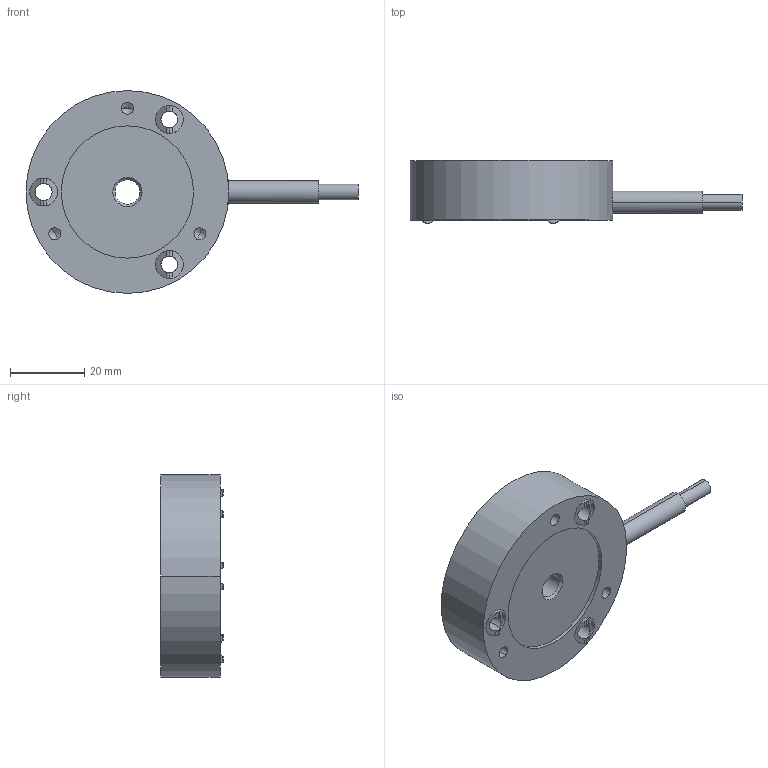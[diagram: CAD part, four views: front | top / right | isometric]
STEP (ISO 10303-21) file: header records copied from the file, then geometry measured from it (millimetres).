
FILE_DESCRIPTION(('STEP AP203'),'1');
FILE_NAME('C:/TPO v2/SharedFS/Outgoing/burster_8523-5500_cqon2ygmyvvdfr5ptjupflcug.stp','2013-08-27T19:47:08',('TraceParts'),('TraceParts S.A.'),'XStep 1.0',' ',' ');
FILE_SCHEMA(('CONFIG_CONTROL_DESIGN'));
Length unit declared in the file: millimetre
Products named in the file (1): 1
Bounding box: 89.2 x 16.9 x 54.5 mm (x, y, z)
Volume: 31182.1 mm3; surface area: 10730 mm2
Topology: 1 solids, 1 shells, 90 faces, 229 edges, 147 vertices
Faces by surface type: cylinder 56, plane 18, cone 10, torus 4, bspline 2
Entity records: 2929 total; most frequent: CARTESIAN_POINT 673, DIRECTION 491, ORIENTED_EDGE 446, EDGE_CURVE 223, AXIS2_PLACEMENT_3D 209, VERTEX_POINT 147, EDGE_LOOP 110, CIRCLE 96
